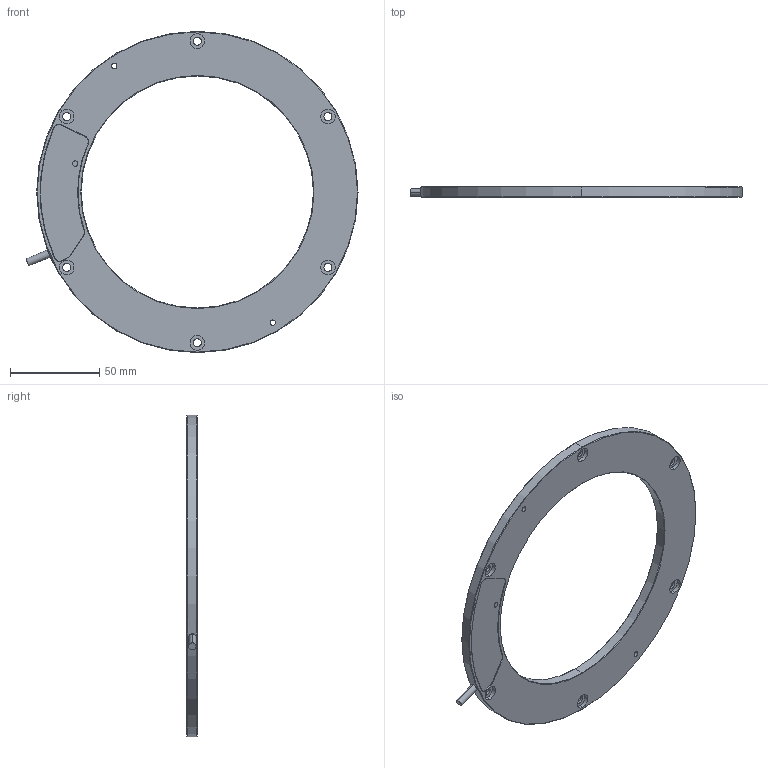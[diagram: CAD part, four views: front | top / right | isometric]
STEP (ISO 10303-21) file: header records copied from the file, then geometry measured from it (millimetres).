
FILE_DESCRIPTION (( 'STEP AP214' ), '1' );
FILE_NAME ('GAS-180-K0x-ST_rev01.STEP', '2023-11-08T15:03:56', ( '' ), ( '' ), 'SwSTEP 2.0', 'SolidWorks 2021', '' );
FILE_SCHEMA (( 'AUTOMOTIVE_DESIGN' ));
Length unit declared in the file: millimetre
Products named in the file (1): GAS-180-K0x-ST_rev01
Bounding box: 185.96 x 6 x 180 mm (x, y, z)
Volume: 71164.1 mm3; surface area: 47025.8 mm2
Topology: 4 solids, 4 shells, 142 faces, 332 edges, 215 vertices
Faces by surface type: cylinder 86, plane 40, cone 16
Entity records: 5847 total; most frequent: DIRECTION 802, CARTESIAN_POINT 748, ORIENTED_EDGE 664, EDGE_CURVE 332, AXIS2_PLACEMENT_3D 329, VERTEX_POINT 215, CIRCLE 186, EDGE_LOOP 179
